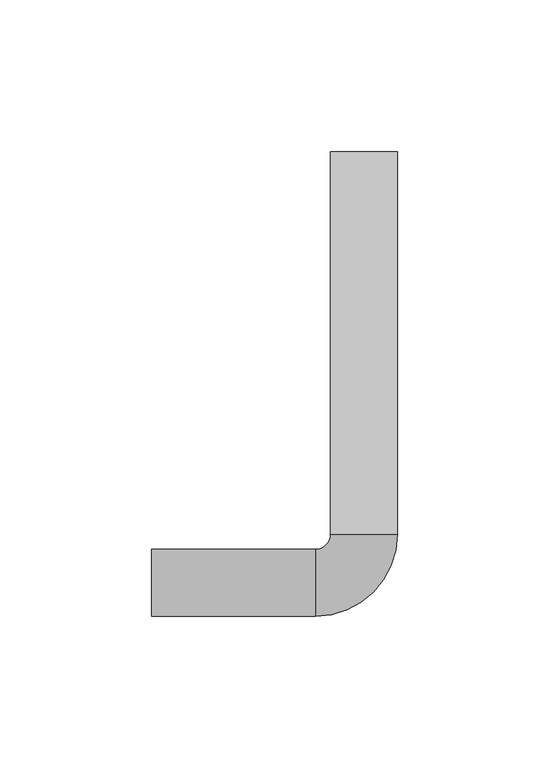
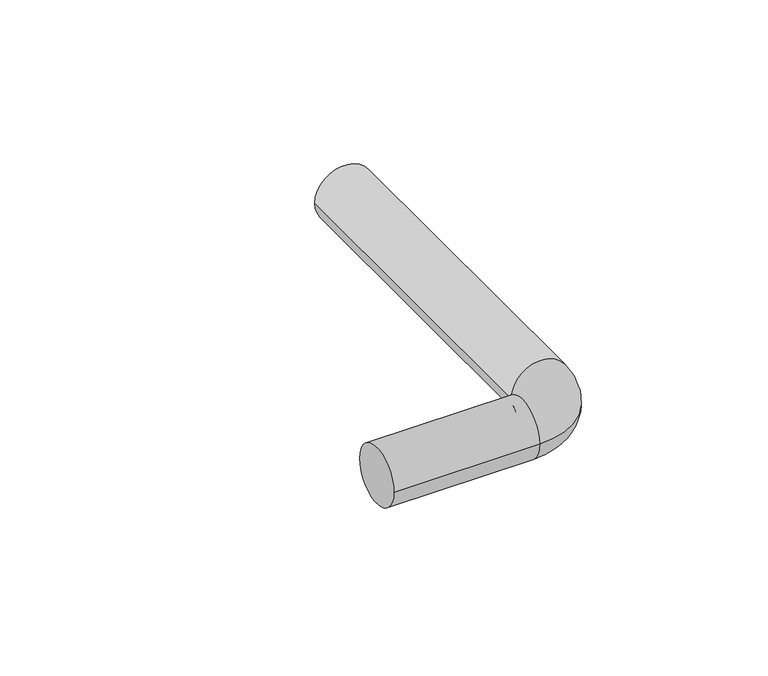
"""IFC4 building model written with IfcOpenShell, lengths in millimetres: pipe fitting geometry, NLRS_50_PIF_UN_Geberit Mapress rvs pasbocht_PRO_103033 : DN12-100 / d15-108 - OD."""

from ifc_helpers import new_model, si_unit, point, frame, origin, place, context, project, spatial, circle_curve, ellipse_curve, trimmed, source, transform, mapped, element, save
from ifc_brep_helpers import plane_surface, cylinder_surface, revolved_surface, advanced_brep


def pipe_fitting_812e0acf(model_context):
    return source(origin(), model_context, "Body", "AdvancedBrep", [
        advanced_brep(
        [(-70.0, -11.0, 0.0), (-70.0, 11.0, 0.0), (-16.0, -11.0, 0.0), (-16.0, 11.0, 0.0), (11.0, 142.0, 0.0), (-11.0, 142.0, 0.0), (-11.0, 16.0, 0.0), (11.0, 16.0, 0.0)],
        [
            (0, 1, circle_curve(frame((-70.0, 0.0, 0.0), z_axis=(-1.0, 0.0, 0.0), x_axis=(0.0, 1.0, 0.0)), 11.0)),
            (1, 0, circle_curve(frame((-70.0, 0.0, 0.0), z_axis=(-1.0, 0.0, 0.0), x_axis=(0.0, 1.0, 0.0)), 11.0)),
            (0, 2),
            (2, 3, circle_curve(frame((-16.0, 0.0, 0.0), z_axis=(-1.0, 0.0, 0.0), x_axis=(0.0, 1.0, 0.0)), 11.0)),
            (3, 1),
            (3, 2, circle_curve(frame((-16.0, 0.0, 0.0), z_axis=(-1.0, 0.0, 0.0), x_axis=(0.0, 1.0, 0.0)), 11.0)),
            (4, 5, circle_curve(frame((0.0, 142.0, 0.0), z_axis=(0.0, 1.0, 0.0), x_axis=(-1.0, 0.0, 0.0)), 11.0)),
            (5, 4, circle_curve(frame((0.0, 142.0, 0.0), z_axis=(0.0, 1.0, 0.0), x_axis=(-1.0, 0.0, 0.0)), 11.0)),
            (6, 7, circle_curve(frame((0.0, 16.0, 0.0), z_axis=(0.0, 1.0, 0.0), x_axis=(-1.0, 0.0, 0.0)), 11.0)),
            (7, 4),
            (5, 6),
            (7, 6, circle_curve(frame((0.0, 16.0, 0.0), z_axis=(0.0, 1.0, 0.0), x_axis=(-1.0, 0.0, 0.0)), 11.0)),
            (6, 3, circle_curve(frame((-16.0, 16.0, 0.0), z_axis=(0.0, 0.0, -1.0), x_axis=(0.0, -1.0, 0.0)), 5.0)),
            (2, 7, circle_curve(frame((-16.0, 16.0, 0.0), z_axis=(0.0, 0.0, 1.0), x_axis=(0.0, -1.0, 0.0)), 27.0)),
        ],
        [
            plane_surface(frame((-70.0, 0.0, 0.0), z_axis=(-1.0, 0.0, 0.0), x_axis=(0.0, 0.0, 1.0))),
            cylinder_surface(frame((-70.0, 0.0, 0.0), z_axis=(-1.0, 0.0, 0.0), x_axis=(0.0, 1.0, 0.0)), 11.0),
            plane_surface(frame((0.0, 142.0, 0.0), z_axis=(0.0, 1.0, 0.0), x_axis=(0.0, 0.0, 1.0))),
            cylinder_surface(frame((0.0, 16.0, 0.0), z_axis=(0.0, -1.0, 0.0), x_axis=(-1.0, 0.0, 0.0)), 11.0),
            revolved_surface(trimmed(ellipse_curve(frame((-16.0, 0.0, 0.0), z_axis=(-1.0, 0.0, 0.0), x_axis=(0.0, 1.0, 0.0)), 11.0, 11.0), [point((-16.0, -11.0, 0.0))], [point((-16.0, 11.0, 0.0))], True, "CARTESIAN"), (-16.0, 16.0, 0.0), (0.0, 0.0, 1.0)),
            revolved_surface(trimmed(ellipse_curve(frame((-16.0, 0.0, 0.0), z_axis=(-1.0, 0.0, 0.0), x_axis=(0.0, 1.0, 0.0)), 11.0, 11.0), [point((-16.0, 11.0, 0.0))], [point((-16.0, -11.0, 0.0))], True, "CARTESIAN"), (-16.0, 16.0, 0.0), (0.0, 0.0, 1.0)),
        ],
        [
            (0, [[1, 2]]),
            (1, [[-1, 3, 4, 5]]),
            (1, [[-2, -5, 6, -3]]),
            (2, [[7, 8]]),
            (3, [[9, 10, -8, 11]]),
            (3, [[12, -11, -7, -10]]),
            (4, [[13, -4, 14, -9]]),
            (5, [[-14, -6, -13, -12]]),
        ],
    ),
    ])


if __name__ == "__main__":
    model = new_model("IFC4")
    model_context = context("Model", 3, world=origin())
    ifc_project = project(units=[si_unit("LENGTHUNIT", "METRE", prefix="MILLI")], contexts=[model_context])
    site = spatial("IfcSite", under=ifc_project)
    building = spatial("IfcBuilding", under=site)
    placement = place(None, origin())
    pipe_fitting_shape = pipe_fitting_812e0acf(model_context)
    element("IfcPipeFitting", 1, ObjectType="NLRS_50_PIF_UN_Geberit Mapress rvs pasbocht_PRO_103033 : DN12-100 / d15-108 - OD", at=placement, inside=building, context=model_context, shape_type="MappedRepresentation", body=[
        mapped(pipe_fitting_shape, transform((0.0, 0.0, 0.0), x_axis=(1.0, 0.0, 0.0), y_axis=(0.0, 1.0, 0.0), z_axis=(0.0, 0.0, 1.0))),
    ])
    save(model, "model.ifc")
